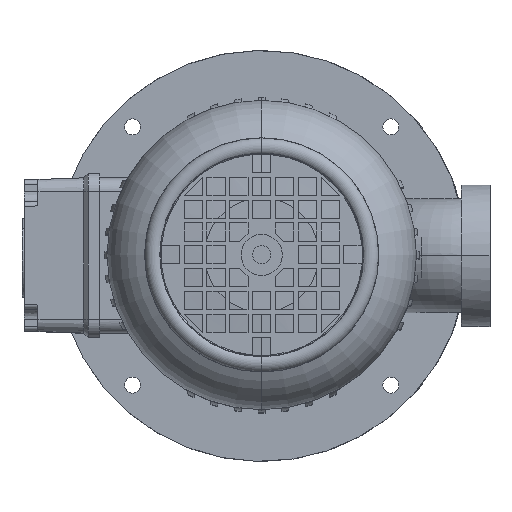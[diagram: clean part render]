
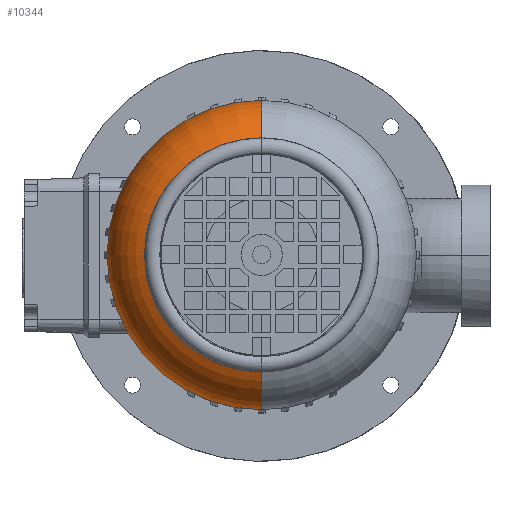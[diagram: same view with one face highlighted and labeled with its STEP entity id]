
A CAD part, top view. The second image highlights one B-rep face of the part: STEP entity #10344.
In plain terms, the highlighted toroidal (fillet/blend) face has major radius 39.75 mm and minor radius 28 mm.
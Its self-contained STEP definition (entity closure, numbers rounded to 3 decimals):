
#5910=VERTEX_POINT('',#15990);
#7412=VERTEX_POINT('',#17664);
#7972=VERTEX_POINT('',#18276);
#8034=EDGE_CURVE('',#7972,#11902,#18344,.T.);
#10320=EDGE_CURVE('',#11902,#7412,#20915,.T.);
#10344=ADVANCED_FACE('',(#20942),#20943,.T.);
#11438=EDGE_CURVE('',#7972,#5910,#22127,.T.);
#11902=VERTEX_POINT('',#22637);
#14382=EDGE_CURVE('',#7412,#5910,#25351,.T.);
#15990=CARTESIAN_POINT('',(0.0,51.25,221.529));
#17664=CARTESIAN_POINT('',(0.0,67.75,196.));
#18276=CARTESIAN_POINT('',(0.,-51.25,221.529));
#18344=CIRCLE('',#33203,28.);
#20915=CIRCLE('',#38334,67.75);
#20942=FACE_OUTER_BOUND('',#38422,.T.);
#20943=TOROIDAL_SURFACE('',#38423,39.75,28.);
#22127=CIRCLE('',#40934,51.25);
#22637=CARTESIAN_POINT('',(0.,-67.75,196.));
#25351=CIRCLE('',#47896,28.);
#33203=AXIS2_PLACEMENT_3D('',#52892,#52893,#52894);
#38334=AXIS2_PLACEMENT_3D('',#55980,#55981,#55982);
#38422=EDGE_LOOP('',(#56013,#56014,#56015,#56016));
#38423=AXIS2_PLACEMENT_3D('',#56017,#56018,#56019);
#40934=AXIS2_PLACEMENT_3D('',#57250,#57251,#57252);
#47896=AXIS2_PLACEMENT_3D('',#60750,#60751,#60752);
#52892=CARTESIAN_POINT('',(0.,-39.75,196.));
#52893=DIRECTION('',(1.0,0.,0.0));
#52894=DIRECTION('',(0.,-1.0,-0.0));
#55980=CARTESIAN_POINT('',(0.0,0.0,196.));
#55981=DIRECTION('',(0.0,0.0,-1.0));
#55982=DIRECTION('',(0.0,1.0,0.0));
#56013=ORIENTED_EDGE('',*,*,#8034,.F.);
#56014=ORIENTED_EDGE('',*,*,#11438,.T.);
#56015=ORIENTED_EDGE('',*,*,#14382,.F.);
#56016=ORIENTED_EDGE('',*,*,#10320,.F.);
#56017=CARTESIAN_POINT('',(0.0,0.0,196.));
#56018=DIRECTION('',(0.0,0.0,-1.0));
#56019=DIRECTION('',(0.0,-1.0,0.0));
#57250=CARTESIAN_POINT('',(0.0,0.0,221.529));
#57251=DIRECTION('',(0.0,0.0,-1.0));
#57252=DIRECTION('',(0.0,1.0,0.0));
#60750=CARTESIAN_POINT('',(0.,39.75,196.));
#60751=DIRECTION('',(1.0,0.,0.0));
#60752=DIRECTION('',(0.,1.0,0.0));
